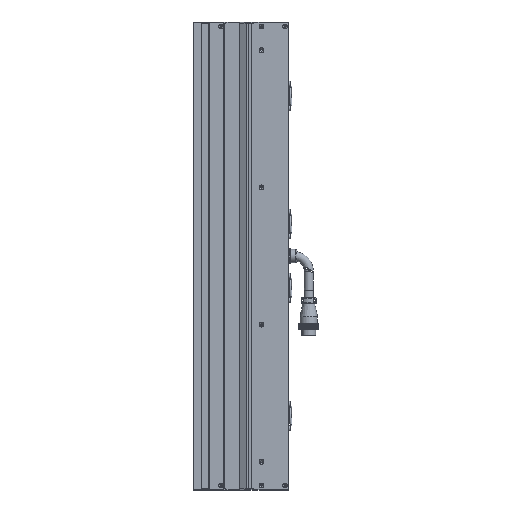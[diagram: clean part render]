
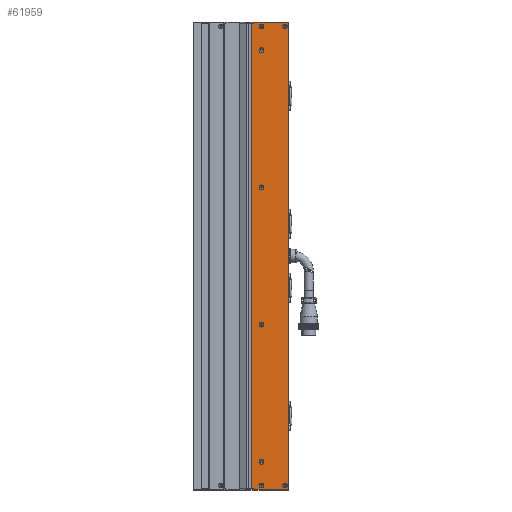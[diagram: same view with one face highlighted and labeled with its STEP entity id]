
A CAD part, left-side view. The second image highlights one B-rep face of the part: STEP entity #61959.
In plain terms, the highlighted planar face has unit normal (-1, 0, 0).
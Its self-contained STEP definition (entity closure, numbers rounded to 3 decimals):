
#794 = VERTEX_POINT ( 'NONE', #17715 ) ;
#1153 = CARTESIAN_POINT ( 'NONE',  ( -24.998, -23.25, -305. ) ) ;
#1230 = DIRECTION ( 'NONE',  ( 0., -1., 0. ) ) ;
#1707 = VECTOR ( 'NONE', #6769, 1000. ) ;
#2012 = VERTEX_POINT ( 'NONE', #63526 ) ;
#2526 = DIRECTION ( 'NONE',  ( 0., 0., 1. ) ) ;
#3671 = EDGE_CURVE ( 'NONE', #69610, #69610, #74950, .T. ) ;
#3948 = CARTESIAN_POINT ( 'NONE',  ( -24.998, -36.5, 93.15 ) ) ;
#4315 = DIRECTION ( 'NONE',  ( 0., 0., 1. ) ) ;
#4423 = CIRCLE ( 'NONE', #39164, 3.15 ) ;
#4566 = AXIS2_PLACEMENT_3D ( 'NONE', #68709, #77799, #4315 ) ;
#5413 = CARTESIAN_POINT ( 'NONE',  ( -24.998, -26.5, -298. ) ) ;
#5452 = EDGE_LOOP ( 'NONE', ( #45856 ) ) ;
#6390 = DIRECTION ( 'NONE',  ( -1., 0., 0. ) ) ;
#6769 = DIRECTION ( 'NONE',  ( 0., 0., 1. ) ) ;
#6969 = VECTOR ( 'NONE', #2526, 1000. ) ;
#7403 = CARTESIAN_POINT ( 'NONE',  ( -24.998, -72., 305. ) ) ;
#8059 = CARTESIAN_POINT ( 'NONE',  ( -24.998, -67.5, -297.85 ) ) ;
#8878 = AXIS2_PLACEMENT_3D ( 'NONE', #97934, #16849, #73519 ) ;
#9790 = VERTEX_POINT ( 'NONE', #11040 ) ;
#10299 = EDGE_CURVE ( 'NONE', #22034, #39858, #59825, .T. ) ;
#10838 = ORIENTED_EDGE ( 'NONE', *, *, #76692, .F. ) ;
#10848 = EDGE_LOOP ( 'NONE', ( #10838 ) ) ;
#11040 = CARTESIAN_POINT ( 'NONE',  ( -24.998, -26.5, 306.5 ) ) ;
#11332 = CARTESIAN_POINT ( 'NONE',  ( -24.998, -72.5, 306.5 ) ) ;
#11487 = VECTOR ( 'NONE', #12348, 1000. ) ;
#11581 = ORIENTED_EDGE ( 'NONE', *, *, #41647, .F. ) ;
#12348 = DIRECTION ( 'NONE',  ( 0., 1., 0. ) ) ;
#13299 = FACE_BOUND ( 'NONE', #63592, .T. ) ;
#13970 = CARTESIAN_POINT ( 'NONE',  ( -24.998, -36.5, -86.85 ) ) ;
#15061 = CARTESIAN_POINT ( 'NONE',  ( -24.998, -36.5, 304.15 ) ) ;
#15228 = VERTEX_POINT ( 'NONE', #8059 ) ;
#15437 = VECTOR ( 'NONE', #100123, 1000. ) ;
#16756 = LINE ( 'NONE', #11332, #15437 ) ;
#16849 = DIRECTION ( 'NONE',  ( -1., 0., 0. ) ) ;
#17715 = CARTESIAN_POINT ( 'NONE',  ( -24.998, -72., -306.5 ) ) ;
#17898 = DIRECTION ( 'NONE',  ( 0., 0., 1. ) ) ;
#19016 = ORIENTED_EDGE ( 'NONE', *, *, #70498, .F. ) ;
#19711 = EDGE_CURVE ( 'NONE', #22034, #37092, #29951, .T. ) ;
#20098 = CARTESIAN_POINT ( 'NONE',  ( -24.998, -72.5, -306.5 ) ) ;
#21174 = CIRCLE ( 'NONE', #55902, 3.15 ) ;
#21478 = ORIENTED_EDGE ( 'NONE', *, *, #77315, .F. ) ;
#22034 = VERTEX_POINT ( 'NONE', #1153 ) ;
#23501 = DIRECTION ( 'NONE',  ( 0., 0., 1. ) ) ;
#23648 = VECTOR ( 'NONE', #1230, 1000. ) ;
#26258 = CIRCLE ( 'NONE', #8878, 3.15 ) ;
#26770 = DIRECTION ( 'NONE',  ( 0., 0., 1. ) ) ;
#27326 = EDGE_LOOP ( 'NONE', ( #93317 ) ) ;
#28529 = CARTESIAN_POINT ( 'NONE',  ( -24.998, -72., 306.5 ) ) ;
#28926 = CARTESIAN_POINT ( 'NONE',  ( -24.998, -72.5, 305. ) ) ;
#29826 = VECTOR ( 'NONE', #101039, 1000. ) ;
#29951 = LINE ( 'NONE', #90943, #23648 ) ;
#30711 = CIRCLE ( 'NONE', #87149, 3.15 ) ;
#32451 = EDGE_CURVE ( 'NONE', #58245, #58245, #37773, .T. ) ;
#34049 = VERTEX_POINT ( 'NONE', #38974 ) ;
#34269 = EDGE_LOOP ( 'NONE', ( #42486 ) ) ;
#37042 = CARTESIAN_POINT ( 'NONE',  ( -24.998, -36.5, 90. ) ) ;
#37092 = VERTEX_POINT ( 'NONE', #59258 ) ;
#37773 = CIRCLE ( 'NONE', #94126, 3.15 ) ;
#38910 = EDGE_CURVE ( 'NONE', #794, #70183, #54845, .T. ) ;
#38974 = CARTESIAN_POINT ( 'NONE',  ( -24.998, -36.5, -266.85 ) ) ;
#39164 = AXIS2_PLACEMENT_3D ( 'NONE', #79458, #71705, #23501 ) ;
#39858 = VERTEX_POINT ( 'NONE', #56194 ) ;
#40354 = CARTESIAN_POINT ( 'NONE',  ( -24.998, -36.5, -297.85 ) ) ;
#41065 = CARTESIAN_POINT ( 'NONE',  ( -24.998, -67.5, 304.15 ) ) ;
#41647 = EDGE_CURVE ( 'NONE', #51390, #37092, #69624, .T. ) ;
#41856 = EDGE_CURVE ( 'NONE', #70183, #9790, #16756, .T. ) ;
#42486 = ORIENTED_EDGE ( 'NONE', *, *, #3671, .F. ) ;
#42923 = VERTEX_POINT ( 'NONE', #15061 ) ;
#43205 = CARTESIAN_POINT ( 'NONE',  ( -24.998, -67.5, 301. ) ) ;
#43693 = DIRECTION ( 'NONE',  ( 0., 0., -1. ) ) ;
#44531 = VECTOR ( 'NONE', #43693, 1000. ) ;
#44606 = AXIS2_PLACEMENT_3D ( 'NONE', #87887, #104235, #71334 ) ;
#44987 = CARTESIAN_POINT ( 'NONE',  ( -24.998, -67.5, -301. ) ) ;
#45856 = ORIENTED_EDGE ( 'NONE', *, *, #92050, .F. ) ;
#46557 = VERTEX_POINT ( 'NONE', #99311 ) ;
#48429 = VECTOR ( 'NONE', #26770, 1000. ) ;
#49778 = FACE_BOUND ( 'NONE', #10848, .T. ) ;
#50300 = DIRECTION ( 'NONE',  ( -1., 0., 0. ) ) ;
#50684 = CARTESIAN_POINT ( 'NONE',  ( -24.998, -23.25, -305. ) ) ;
#51029 = ORIENTED_EDGE ( 'NONE', *, *, #19711, .T. ) ;
#51115 = FACE_BOUND ( 'NONE', #27326, .T. ) ;
#51390 = VERTEX_POINT ( 'NONE', #93949 ) ;
#53198 = ORIENTED_EDGE ( 'NONE', *, *, #38910, .T. ) ;
#54845 = LINE ( 'NONE', #7403, #6969 ) ;
#55902 = AXIS2_PLACEMENT_3D ( 'NONE', #44987, #77352, #74552 ) ;
#55936 = EDGE_CURVE ( 'NONE', #9790, #2012, #72188, .T. ) ;
#56194 = CARTESIAN_POINT ( 'NONE',  ( -24.998, -23.25, 305. ) ) ;
#58021 = EDGE_CURVE ( 'NONE', #15228, #15228, #21174, .T. ) ;
#58245 = VERTEX_POINT ( 'NONE', #3948 ) ;
#59258 = CARTESIAN_POINT ( 'NONE',  ( -24.998, -26.5, -305. ) ) ;
#59825 = LINE ( 'NONE', #50684, #48429 ) ;
#59940 = FACE_BOUND ( 'NONE', #77660, .T. ) ;
#60640 = DIRECTION ( 'NONE',  ( 1., 0., 0. ) ) ;
#60864 = AXIS2_PLACEMENT_3D ( 'NONE', #28926, #60640, #92004 ) ;
#61397 = DIRECTION ( 'NONE',  ( 0., 0., 1. ) ) ;
#61959 = ADVANCED_FACE ( 'NONE', ( #59940, #51115, #49778, #93959, #100308, #76247, #97747, #13299, #67487 ), #67701, .F. ) ;
#62822 = EDGE_CURVE ( 'NONE', #42923, #42923, #78615, .T. ) ;
#63526 = CARTESIAN_POINT ( 'NONE',  ( -24.998, -26.5, 305. ) ) ;
#63592 = EDGE_LOOP ( 'NONE', ( #93734 ) ) ;
#66705 = ORIENTED_EDGE ( 'NONE', *, *, #32451, .F. ) ;
#67487 = FACE_OUTER_BOUND ( 'NONE', #70806, .T. ) ;
#67701 = PLANE ( 'NONE',  #60864 ) ;
#68577 = EDGE_LOOP ( 'NONE', ( #84531 ) ) ;
#68709 = CARTESIAN_POINT ( 'NONE',  ( -24.998, -36.5, -90. ) ) ;
#69610 = VERTEX_POINT ( 'NONE', #13970 ) ;
#69624 = LINE ( 'NONE', #5413, #1707 ) ;
#70183 = VERTEX_POINT ( 'NONE', #28529 ) ;
#70498 = EDGE_CURVE ( 'NONE', #39858, #2012, #85268, .T. ) ;
#70741 = ORIENTED_EDGE ( 'NONE', *, *, #55936, .T. ) ;
#70806 = EDGE_LOOP ( 'NONE', ( #51029, #11581, #101004, #53198, #73081, #70741, #19016, #101728 ) ) ;
#71334 = DIRECTION ( 'NONE',  ( 0., 0., 1. ) ) ;
#71705 = DIRECTION ( 'NONE',  ( -1., 0., 0. ) ) ;
#72188 = LINE ( 'NONE', #85556, #44531 ) ;
#72393 = EDGE_CURVE ( 'NONE', #73106, #73106, #88068, .T. ) ;
#73081 = ORIENTED_EDGE ( 'NONE', *, *, #41856, .T. ) ;
#73106 = VERTEX_POINT ( 'NONE', #40354 ) ;
#73519 = DIRECTION ( 'NONE',  ( 0., 0., 1. ) ) ;
#74552 = DIRECTION ( 'NONE',  ( 0., 0., 1. ) ) ;
#74950 = CIRCLE ( 'NONE', #4566, 3.15 ) ;
#76247 = FACE_BOUND ( 'NONE', #5452, .T. ) ;
#76692 = EDGE_CURVE ( 'NONE', #34049, #34049, #4423, .T. ) ;
#77315 = EDGE_CURVE ( 'NONE', #93304, #93304, #30711, .T. ) ;
#77352 = DIRECTION ( 'NONE',  ( -1., 0., 0. ) ) ;
#77660 = EDGE_LOOP ( 'NONE', ( #21478 ) ) ;
#77799 = DIRECTION ( 'NONE',  ( -1., 0., 0. ) ) ;
#78516 = CARTESIAN_POINT ( 'NONE',  ( -24.998, -36.5, -301. ) ) ;
#78615 = CIRCLE ( 'NONE', #44606, 3.15 ) ;
#79458 = CARTESIAN_POINT ( 'NONE',  ( -24.998, -36.5, -270. ) ) ;
#82812 = EDGE_LOOP ( 'NONE', ( #66705 ) ) ;
#84531 = ORIENTED_EDGE ( 'NONE', *, *, #58021, .F. ) ;
#85268 = LINE ( 'NONE', #101727, #29826 ) ;
#85556 = CARTESIAN_POINT ( 'NONE',  ( -24.998, -26.5, 298. ) ) ;
#87149 = AXIS2_PLACEMENT_3D ( 'NONE', #43205, #50300, #17898 ) ;
#87678 = DIRECTION ( 'NONE',  ( 0., 0., 1. ) ) ;
#87887 = CARTESIAN_POINT ( 'NONE',  ( -24.998, -36.5, 301. ) ) ;
#88068 = CIRCLE ( 'NONE', #95683, 3.15 ) ;
#88201 = LINE ( 'NONE', #20098, #11487 ) ;
#89032 = EDGE_CURVE ( 'NONE', #794, #51390, #88201, .T. ) ;
#90943 = CARTESIAN_POINT ( 'NONE',  ( -24.998, -72.5, -305. ) ) ;
#92004 = DIRECTION ( 'NONE',  ( 0., 0., -1. ) ) ;
#92050 = EDGE_CURVE ( 'NONE', #46557, #46557, #26258, .T. ) ;
#92761 = DIRECTION ( 'NONE',  ( -1., 0., 0. ) ) ;
#93304 = VERTEX_POINT ( 'NONE', #41065 ) ;
#93317 = ORIENTED_EDGE ( 'NONE', *, *, #62822, .F. ) ;
#93734 = ORIENTED_EDGE ( 'NONE', *, *, #72393, .F. ) ;
#93949 = CARTESIAN_POINT ( 'NONE',  ( -24.998, -26.5, -306.5 ) ) ;
#93959 = FACE_BOUND ( 'NONE', #34269, .T. ) ;
#94126 = AXIS2_PLACEMENT_3D ( 'NONE', #37042, #92761, #61397 ) ;
#95683 = AXIS2_PLACEMENT_3D ( 'NONE', #78516, #6390, #87678 ) ;
#97747 = FACE_BOUND ( 'NONE', #68577, .T. ) ;
#97934 = CARTESIAN_POINT ( 'NONE',  ( -24.998, -36.5, 270. ) ) ;
#99311 = CARTESIAN_POINT ( 'NONE',  ( -24.998, -36.5, 273.15 ) ) ;
#100123 = DIRECTION ( 'NONE',  ( 0., 1., 0. ) ) ;
#100308 = FACE_BOUND ( 'NONE', #82812, .T. ) ;
#101004 = ORIENTED_EDGE ( 'NONE', *, *, #89032, .F. ) ;
#101039 = DIRECTION ( 'NONE',  ( 0., -1., 0. ) ) ;
#101727 = CARTESIAN_POINT ( 'NONE',  ( -24.998, -72.5, 305. ) ) ;
#101728 = ORIENTED_EDGE ( 'NONE', *, *, #10299, .F. ) ;
#104235 = DIRECTION ( 'NONE',  ( -1., 0., 0. ) ) ;
